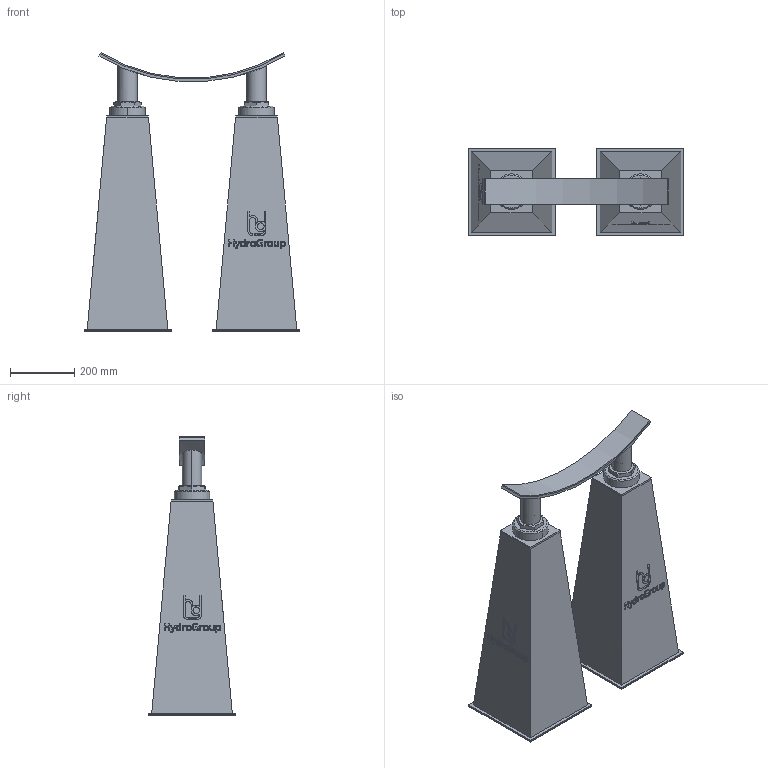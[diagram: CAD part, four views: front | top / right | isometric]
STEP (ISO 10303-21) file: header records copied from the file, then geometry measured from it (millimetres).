
FILE_DESCRIPTION(('STEP AP214'),'1');
FILE_NAME('RSRFE-I-DUO_DN1100.stp','2018-06-27T13:52:23',(' '),(' '),'Spatial InterOp 3D',' ',' ');
FILE_SCHEMA(('automotive_design'));
Length unit declared in the file: millimetre
Products named in the file (10): 1; 2; 3; 4; 5; 6; 7; 8; 9; 10
Bounding box: 670 x 270 x 864.87 mm (x, y, z)
Volume: 53215469.9 mm3; surface area: 1974792.1 mm2
Topology: 10 solids, 12 shells, 424 faces, 1050 edges, 688 vertices
Faces by surface type: plane 272, cylinder 72, extrusion 48, cone 32
Entity records: 17877 total; most frequent: CARTESIAN_POINT 4300, ORIENTED_EDGE 2100, DIRECTION 1894, EDGE_CURVE 1050, VECTOR 810, LINE 762, VERTEX_POINT 688, AXIS2_PLACEMENT_3D 542
